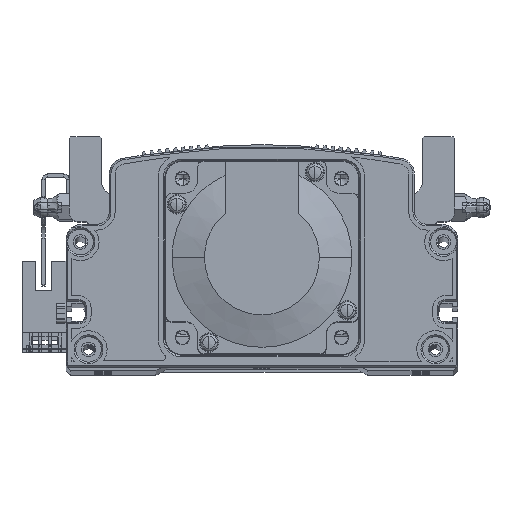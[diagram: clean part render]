
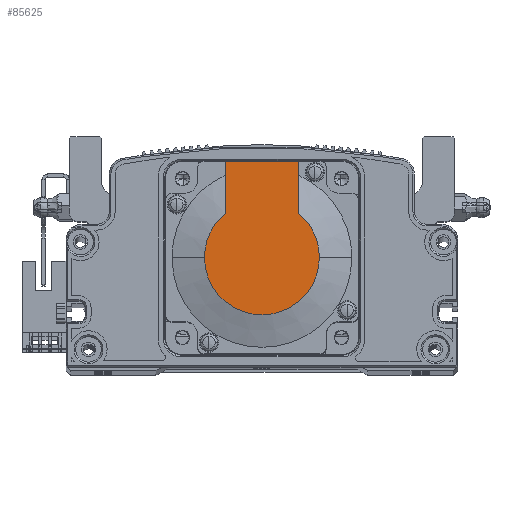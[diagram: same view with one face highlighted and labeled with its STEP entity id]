
A CAD part, top view. The second image highlights one B-rep face of the part: STEP entity #85625.
In plain terms, the highlighted planar face has unit normal (0, 0, 1) as drawn and (-1, 0, 0) by its records, which use the part's own axes.
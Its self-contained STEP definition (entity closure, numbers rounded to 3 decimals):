
#1547 = AXIS2_PLACEMENT_3D ( 'NONE', #38231, #5485, #66115 ) ;
#2638 = VERTEX_POINT ( 'NONE', #37651 ) ;
#3803 = EDGE_CURVE ( 'NONE', #2638, #31297, #61000, .T. ) ;
#4443 = LINE ( 'NONE', #72456, #52296 ) ;
#5195 = DIRECTION ( 'NONE',  ( 0., 0., -1. ) ) ;
#5254 = AXIS2_PLACEMENT_3D ( 'NONE', #86674, #85792, #5195 ) ;
#5485 = DIRECTION ( 'NONE',  ( -1., 0., 0. ) ) ;
#5796 = PLANE ( 'NONE',  #61633 ) ;
#6016 = CARTESIAN_POINT ( 'NONE',  ( -118.5, 30., -11.45 ) ) ;
#11562 = ORIENTED_EDGE ( 'NONE', *, *, #3803, .T. ) ;
#12477 = CARTESIAN_POINT ( 'NONE',  ( -118.5, 0., -17.881 ) ) ;
#16601 = CARTESIAN_POINT ( 'NONE',  ( -118.5, 30., 11.45 ) ) ;
#18059 = ORIENTED_EDGE ( 'NONE', *, *, #85227, .T. ) ;
#20634 = EDGE_CURVE ( 'NONE', #69254, #31297, #4443, .T. ) ;
#20654 = EDGE_CURVE ( 'NONE', #60212, #68407, #72506, .T. ) ;
#23538 = FACE_OUTER_BOUND ( 'NONE', #74844, .T. ) ;
#23823 = CARTESIAN_POINT ( 'NONE',  ( -118.5, 13.735, 11.45 ) ) ;
#31297 = VERTEX_POINT ( 'NONE', #23823 ) ;
#31713 = DIRECTION ( 'NONE',  ( 0., 0., -1. ) ) ;
#32623 = CARTESIAN_POINT ( 'NONE',  ( -118.5, -8.941, -11.45 ) ) ;
#34469 = EDGE_CURVE ( 'NONE', #68407, #75360, #72864, .T. ) ;
#37651 = CARTESIAN_POINT ( 'NONE',  ( -118.5, 0., 17.881 ) ) ;
#38231 = CARTESIAN_POINT ( 'NONE',  ( -118.5, 0., 0. ) ) ;
#45989 = DIRECTION ( 'NONE',  ( 0., 0., 1. ) ) ;
#48916 = ORIENTED_EDGE ( 'NONE', *, *, #20654, .T. ) ;
#52245 = DIRECTION ( 'NONE',  ( 0., -1., 0. ) ) ;
#52296 = VECTOR ( 'NONE', #79600, 1000. ) ;
#55342 = AXIS2_PLACEMENT_3D ( 'NONE', #59331, #85520, #31713 ) ;
#55663 = CARTESIAN_POINT ( 'NONE',  ( -118.5, 13.735, -11.45 ) ) ;
#57126 = LINE ( 'NONE', #71960, #74194 ) ;
#58011 = DIRECTION ( 'NONE',  ( 0., 0., 1. ) ) ;
#59331 = CARTESIAN_POINT ( 'NONE',  ( -118.5, 0., 0. ) ) ;
#59342 = DIRECTION ( 'NONE',  ( -1., 0., 0. ) ) ;
#60212 = VERTEX_POINT ( 'NONE', #6016 ) ;
#61000 = CIRCLE ( 'NONE', #55342, 17.881 ) ;
#61633 = AXIS2_PLACEMENT_3D ( 'NONE', #86399, #59342, #45989 ) ;
#66115 = DIRECTION ( 'NONE',  ( 0., 0., -1. ) ) ;
#66129 = ORIENTED_EDGE ( 'NONE', *, *, #88083, .F. ) ;
#68407 = VERTEX_POINT ( 'NONE', #55663 ) ;
#69254 = VERTEX_POINT ( 'NONE', #16601 ) ;
#69744 = ORIENTED_EDGE ( 'NONE', *, *, #34469, .T. ) ;
#71960 = CARTESIAN_POINT ( 'NONE',  ( -118.5, 30., 25. ) ) ;
#72363 = ORIENTED_EDGE ( 'NONE', *, *, #20634, .F. ) ;
#72456 = CARTESIAN_POINT ( 'NONE',  ( -118.5, 0., 11.45 ) ) ;
#72506 = LINE ( 'NONE', #32623, #76791 ) ;
#72864 = CIRCLE ( 'NONE', #1547, 17.881 ) ;
#74194 = VECTOR ( 'NONE', #58011, 1000. ) ;
#74844 = EDGE_LOOP ( 'NONE', ( #48916, #69744, #18059, #11562, #72363, #66129 ) ) ;
#75360 = VERTEX_POINT ( 'NONE', #12477 ) ;
#76791 = VECTOR ( 'NONE', #52245, 1000. ) ;
#79600 = DIRECTION ( 'NONE',  ( 0., -1., 0. ) ) ;
#83137 = CIRCLE ( 'NONE', #5254, 17.881 ) ;
#85227 = EDGE_CURVE ( 'NONE', #75360, #2638, #83137, .T. ) ;
#85520 = DIRECTION ( 'NONE',  ( -1., 0., 0. ) ) ;
#85625 = ADVANCED_FACE ( 'NONE', ( #23538 ), #5796, .T. ) ;
#85792 = DIRECTION ( 'NONE',  ( -1., 0., 0. ) ) ;
#86399 = CARTESIAN_POINT ( 'NONE',  ( -118.5, -8.941, 0. ) ) ;
#86674 = CARTESIAN_POINT ( 'NONE',  ( -118.5, 0., 0. ) ) ;
#88083 = EDGE_CURVE ( 'NONE', #60212, #69254, #57126, .T. ) ;
